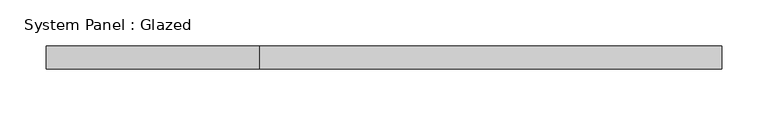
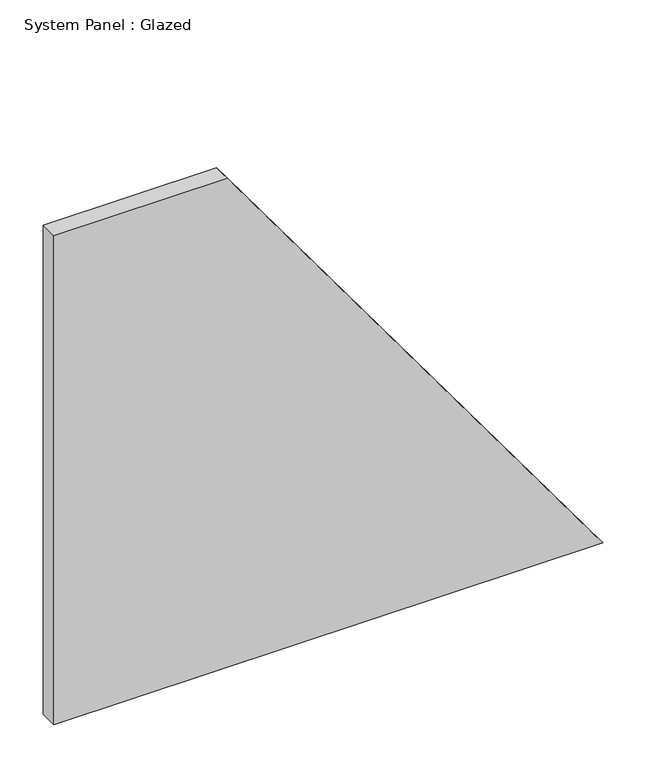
"""IFC4 building model written with IfcOpenShell, lengths in millimetres: plate geometry, System Panel : Glazed."""

from ifc_helpers import new_model, si_unit, frame, origin, place, context, project, spatial, polyline, outline, extrude, source, transform, mapped, element, save


def system_panel_glazed_597167cc(model_context):
    return source(origin(), model_context, "Body", "SweptSolid", [
        extrude(outline(polyline([(0.0, -367.2069522), (0.0, 367.2069522), (691.2241464, -134.9967866), (691.2241464, -367.2069522), (0.0, -367.2069522)])), frame((0.0, 24.5, 0.0), z_axis=(0.0, 1.0, 0.0), x_axis=(0.0, 0.0, 1.0)), (0.0, 0.0, 1.0), 25.0),
    ])


if __name__ == "__main__":
    model = new_model("IFC4")
    model_context = context("Model", 3, world=origin())
    ifc_project = project(units=[si_unit("LENGTHUNIT", "METRE", prefix="MILLI")], contexts=[model_context])
    site = spatial("IfcSite", under=ifc_project)
    building = spatial("IfcBuilding", under=site)
    placement = place(None, origin())
    system_panel_glazed_shape = system_panel_glazed_597167cc(model_context)
    element("IfcPlate", 1, ObjectType="System Panel : Glazed", at=placement, inside=building, context=model_context, shape_type="MappedRepresentation", body=[
        mapped(system_panel_glazed_shape, transform((0.0, 0.0, 0.0), x_axis=(1.0, 0.0, 0.0), y_axis=(0.0, 1.0, 0.0), z_axis=(0.0, 0.0, 1.0))),
    ])
    save(model, "model.ifc")
